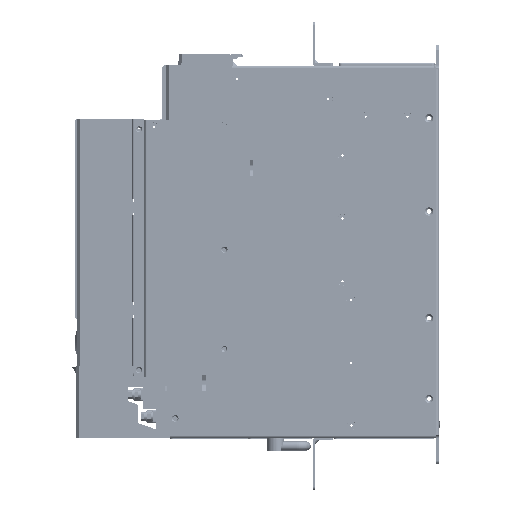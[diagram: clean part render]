
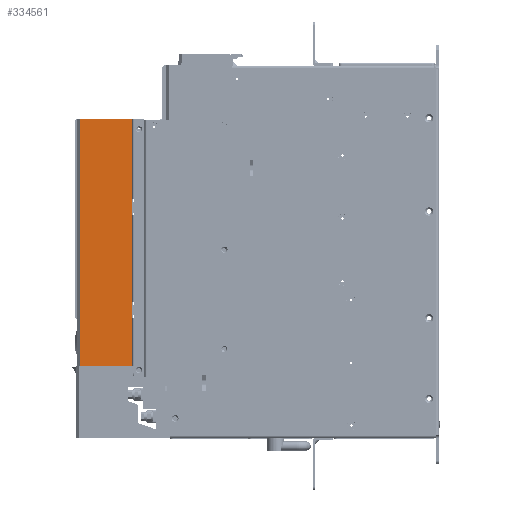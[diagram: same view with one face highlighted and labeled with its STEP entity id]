
A CAD part, left-side view. The second image highlights one B-rep face of the part: STEP entity #334561.
In plain terms, the highlighted planar face has unit normal (-1, 0, 0).
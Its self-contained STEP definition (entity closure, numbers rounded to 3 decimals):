
#323179=DIRECTION('',(0.,-1.,0.));
#323180=VECTOR('',#323179,50.);
#323181=CARTESIAN_POINT('',(-49.75,23.5,0.));
#323182=LINE('',#323181,#323180);
#323657=DIRECTION('',(0.,0.,1.));
#323658=VECTOR('',#323657,236.1);
#323659=CARTESIAN_POINT('',(-49.75,-26.5,0.));
#323660=LINE('',#323659,#323658);
#324327=DIRECTION('',(0.,-1.,0.));
#324328=VECTOR('',#324327,50.);
#324329=CARTESIAN_POINT('',(-49.75,23.5,236.1));
#324330=LINE('',#324329,#324328);
#324331=DIRECTION('',(0.,0.,-1.));
#324332=VECTOR('',#324331,236.1);
#324333=CARTESIAN_POINT('',(-49.75,23.5,236.1));
#324334=LINE('',#324333,#324332);
#330681=CARTESIAN_POINT('',(-49.75,23.5,0.));
#330682=VERTEX_POINT('',#330681);
#330683=CARTESIAN_POINT('',(-49.75,-26.5,0.));
#330684=VERTEX_POINT('',#330683);
#330949=CARTESIAN_POINT('',(-49.75,-26.5,236.1));
#330950=VERTEX_POINT('',#330949);
#331350=CARTESIAN_POINT('',(-49.75,23.5,236.1));
#331351=VERTEX_POINT('',#331350);
#334549=CARTESIAN_POINT('',(-49.75,26.5,0.));
#334550=DIRECTION('',(-1.,0.,0.));
#334551=DIRECTION('',(0.,-1.,0.));
#334552=AXIS2_PLACEMENT_3D('',#334549,#334550,#334551);
#334553=PLANE('',#334552);
#334555=ORIENTED_EDGE('',*,*,#334554,.F.);
#334556=ORIENTED_EDGE('',*,*,#334414,.T.);
#334557=ORIENTED_EDGE('',*,*,#333643,.F.);
#334558=ORIENTED_EDGE('',*,*,#333092,.F.);
#334559=EDGE_LOOP('',(#334555,#334556,#334557,#334558));
#334560=FACE_OUTER_BOUND('',#334559,.F.);
#334561=ADVANCED_FACE('',(#334560),#334553,.T.);
#333092=EDGE_CURVE('',#330682,#330684,#323182,.T.);
#333643=EDGE_CURVE('',#330684,#330950,#323660,.T.);
#334414=EDGE_CURVE('',#331351,#330950,#324330,.T.);
#334554=EDGE_CURVE('',#331351,#330682,#324334,.T.);
